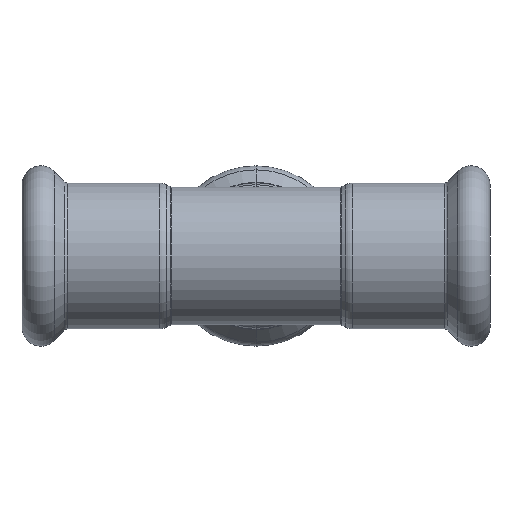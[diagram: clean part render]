
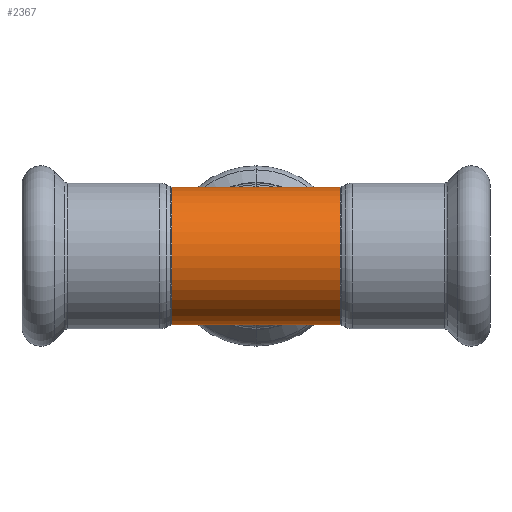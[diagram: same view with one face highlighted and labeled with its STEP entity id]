
A CAD part, front view. The second image highlights one B-rep face of the part: STEP entity #2367.
In plain terms, the highlighted cylindrical face has radius 10 mm (diameter 20 mm), a partial arc.
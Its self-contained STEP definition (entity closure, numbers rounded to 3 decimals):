
#32 = LINE ( 'NONE', #3341, #2928 ) ;
#62 = AXIS2_PLACEMENT_3D ( 'NONE', #1783, #2051, #1291 ) ;
#188 = ORIENTED_EDGE ( 'NONE', *, *, #2390, .F. ) ;
#220 = EDGE_CURVE ( 'NONE', #3543, #3239, #669, .T. ) ;
#344 = ORIENTED_EDGE ( 'NONE', *, *, #1325, .F. ) ;
#352 = EDGE_LOOP ( 'NONE', ( #1326, #355, #2263, #1966, #188, #344 ) ) ;
#355 = ORIENTED_EDGE ( 'NONE', *, *, #587, .T. ) ;
#532 = CIRCLE ( 'NONE', #62, 10. ) ;
#587 = EDGE_CURVE ( 'NONE', #1296, #3543, #2076, .T. ) ;
#669 = LINE ( 'NONE', #2757, #3276 ) ;
#704 = VECTOR ( 'NONE', #2114, 1000. ) ;
#805 = EDGE_CURVE ( 'NONE', #1296, #2870, #32, .T. ) ;
#964 = LINE ( 'NONE', #1918, #2292 ) ;
#977 = AXIS2_PLACEMENT_3D ( 'NONE', #1510, #2808, #2829 ) ;
#985 = AXIS2_PLACEMENT_3D ( 'NONE', #1091, #1893, #3231 ) ;
#1035 = VERTEX_POINT ( 'NONE', #2266 ) ;
#1091 = CARTESIAN_POINT ( 'NONE',  ( 12.248, 0., 0. ) ) ;
#1171 = DIRECTION ( 'NONE',  ( -1., 0., 0. ) ) ;
#1242 = CARTESIAN_POINT ( 'NONE',  ( -12.248, 0., -10. ) ) ;
#1291 = DIRECTION ( 'NONE',  ( 0., 0., 1. ) ) ;
#1296 = VERTEX_POINT ( 'NONE', #2397 ) ;
#1325 = EDGE_CURVE ( 'NONE', #2870, #3331, #3141, .T. ) ;
#1326 = ORIENTED_EDGE ( 'NONE', *, *, #805, .F. ) ;
#1510 = CARTESIAN_POINT ( 'NONE',  ( 27.146, 0., 0. ) ) ;
#1780 = FACE_OUTER_BOUND ( 'NONE', #352, .T. ) ;
#1783 = CARTESIAN_POINT ( 'NONE',  ( -12.248, 0., 0. ) ) ;
#1893 = DIRECTION ( 'NONE',  ( -1., 0., 0. ) ) ;
#1918 = CARTESIAN_POINT ( 'NONE',  ( 27.146, 0., 10. ) ) ;
#1931 = DIRECTION ( 'NONE',  ( -1., 0., 0. ) ) ;
#1966 = ORIENTED_EDGE ( 'NONE', *, *, #2976, .T. ) ;
#2051 = DIRECTION ( 'NONE',  ( -1., 0., 0. ) ) ;
#2076 = CIRCLE ( 'NONE', #985, 10. ) ;
#2114 = DIRECTION ( 'NONE',  ( -1., 0., 0. ) ) ;
#2153 = CARTESIAN_POINT ( 'NONE',  ( 12.248, 0., 10. ) ) ;
#2157 = CYLINDRICAL_SURFACE ( 'NONE', #977, 10. ) ;
#2263 = ORIENTED_EDGE ( 'NONE', *, *, #220, .T. ) ;
#2266 = CARTESIAN_POINT ( 'NONE',  ( -12.248, 0., 10. ) ) ;
#2286 = DIRECTION ( 'NONE',  ( -1., 0., 0. ) ) ;
#2292 = VECTOR ( 'NONE', #1931, 1000. ) ;
#2367 = ADVANCED_FACE ( 'NONE', ( #1780 ), #2157, .T. ) ;
#2390 = EDGE_CURVE ( 'NONE', #3331, #1035, #532, .T. ) ;
#2397 = CARTESIAN_POINT ( 'NONE',  ( 12.248, 0., -10. ) ) ;
#2425 = CARTESIAN_POINT ( 'NONE',  ( 0., 0., -10. ) ) ;
#2649 = CARTESIAN_POINT ( 'NONE',  ( 27.146, 0., -10. ) ) ;
#2757 = CARTESIAN_POINT ( 'NONE',  ( 27.146, 0., 10. ) ) ;
#2808 = DIRECTION ( 'NONE',  ( -1., 0., 0. ) ) ;
#2829 = DIRECTION ( 'NONE',  ( 0., 0., 1. ) ) ;
#2870 = VERTEX_POINT ( 'NONE', #2425 ) ;
#2928 = VECTOR ( 'NONE', #1171, 1000. ) ;
#2976 = EDGE_CURVE ( 'NONE', #3239, #1035, #964, .T. ) ;
#3123 = CARTESIAN_POINT ( 'NONE',  ( 0., 0., 10. ) ) ;
#3141 = LINE ( 'NONE', #2649, #704 ) ;
#3231 = DIRECTION ( 'NONE',  ( 0., 0., 1. ) ) ;
#3239 = VERTEX_POINT ( 'NONE', #3123 ) ;
#3276 = VECTOR ( 'NONE', #2286, 1000. ) ;
#3331 = VERTEX_POINT ( 'NONE', #1242 ) ;
#3341 = CARTESIAN_POINT ( 'NONE',  ( 27.146, 0., -10. ) ) ;
#3543 = VERTEX_POINT ( 'NONE', #2153 ) ;
